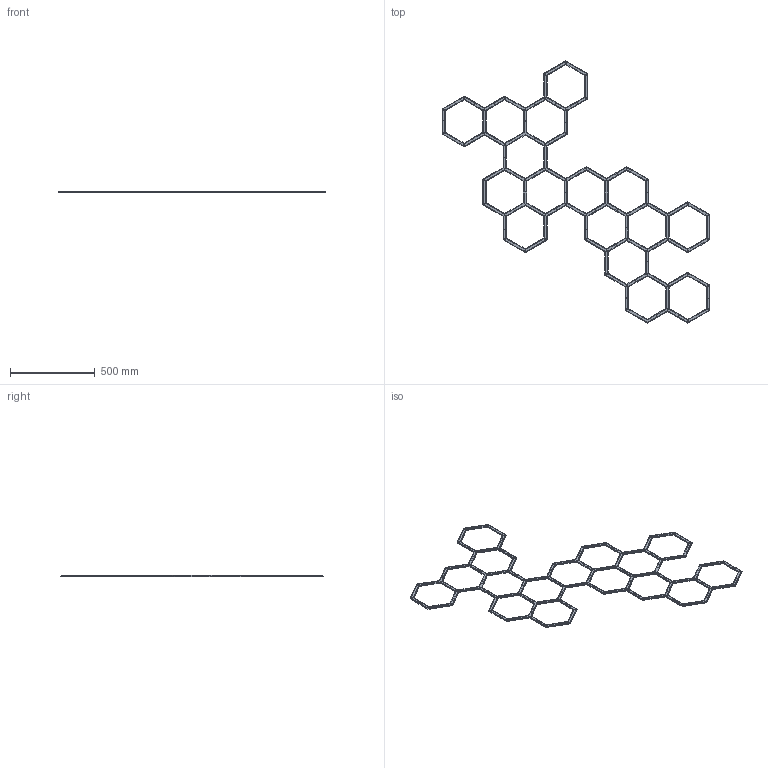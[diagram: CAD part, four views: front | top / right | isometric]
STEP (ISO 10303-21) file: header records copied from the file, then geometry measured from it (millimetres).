
FILE_DESCRIPTION(/* description */ (''),/* implementation_level */ '2;1');
FILE_NAME(/* name */ 'Main Frame V0.step',/* time_stamp */ '2025-09-09T11:21:26+08:00',/* author */ (''),/* organization */ (''),/* preprocessor_version */ 'ST-DEVELOPER v20.1',/* originating_system */ 'Autodesk Translation Framework v14.10.0.0',/* authorisation */ '');
FILE_SCHEMA (('AUTOMOTIVE_DESIGN { 1 0 10303 214 3 1 1 }'));
Products named in the file (1): Hex Light
Bounding box: 1580 x 1547.3 x 6 mm (x, y, z)
Volume: 706467.9 mm3; surface area: 590646.3 mm2
Topology: 33 solids, 33 shells, 5712 faces, 16409 edges, 10939 vertices
Faces by surface type: bspline 2816, plane 2652, cylinder 244
Full cylindrical faces by diameter (mm): 6 x56
Entity records: 211840 total; most frequent: CARTESIAN_POINT 80933, ORIENTED_EDGE 32818, DIRECTION 17059, EDGE_CURVE 16409, VERTEX_POINT 10939, LINE 10289, VECTOR 10289, EDGE_LOOP 6000
